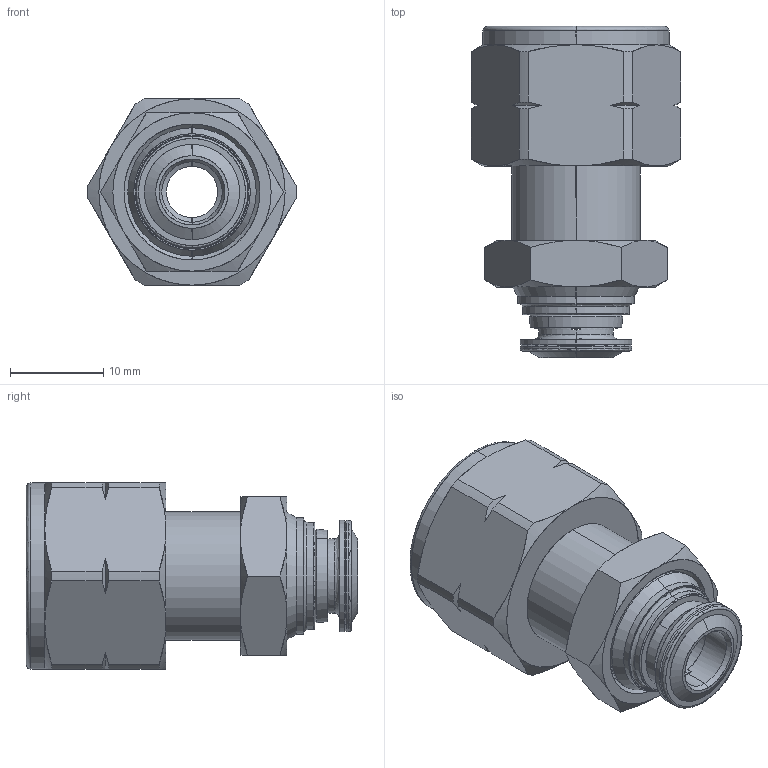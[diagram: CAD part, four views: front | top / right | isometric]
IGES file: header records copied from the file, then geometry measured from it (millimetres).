
Start section: SolidWorks IGES file using analytic representation for surfaces
Global section: file name: K:\Disegni Esecutivi\ALPHA TECHNOLOGIES\89000\Assiemi-89000\89055\IGES\8905500010.IGS; native system: SolidWorks 2016; preprocessor: SolidWorks 2016; author: cad06; date: 191204.144234; units: millimetre
Bounding box: 22.5 x 35.6 x 20 mm (x, y, z)
Surface area: 3821.6 mm2 (no closed solid volume)
Topology: 0 solids, 0 shells, 139 faces, 1604 edges, 1604 vertices
Faces by surface type: revolution 100, bspline 39
